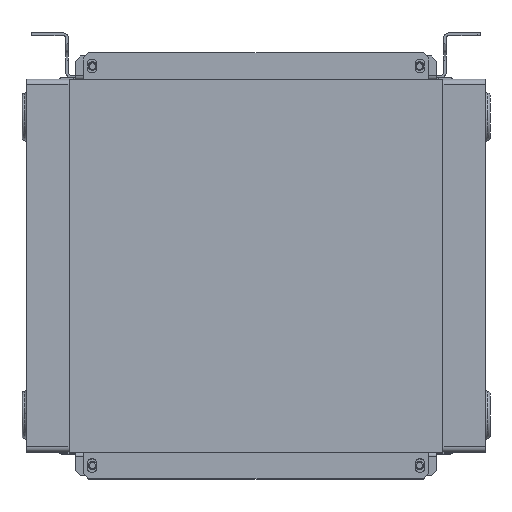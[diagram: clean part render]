
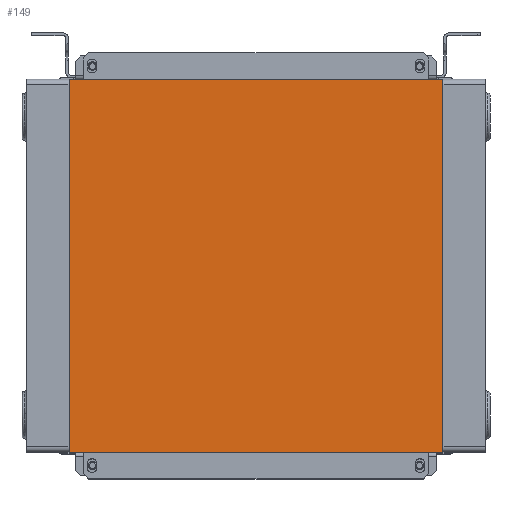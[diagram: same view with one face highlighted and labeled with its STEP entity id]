
A CAD part, top view. The second image highlights one B-rep face of the part: STEP entity #149.
In plain terms, the highlighted planar face has unit normal (0, 0, 1).
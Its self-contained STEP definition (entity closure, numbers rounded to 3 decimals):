
#17=CARTESIAN_POINT('',(264.828,59.725,63.0));
#18=VERTEX_POINT('',#17);
#25=CARTESIAN_POINT('',(-85.172,59.725,63.0));
#26=VERTEX_POINT('',#25);
#27=CARTESIAN_POINT('',(-85.172,59.725,63.0));
#28=DIRECTION('',(1.0,0.0,0.0));
#29=VECTOR('',#28,350.0);
#30=LINE('',#27,#29);
#31=EDGE_CURVE('',#26,#18,#30,.T.);
#55=CARTESIAN_POINT('',(264.828,408.725,63.0));
#56=VERTEX_POINT('',#55);
#63=CARTESIAN_POINT('',(264.828,59.725,63.0));
#64=DIRECTION('',(0.0,1.0,0.0));
#65=VECTOR('',#64,349.0);
#66=LINE('',#63,#65);
#67=EDGE_CURVE('',#18,#56,#66,.T.);
#86=CARTESIAN_POINT('',(-85.172,408.725,63.0));
#87=VERTEX_POINT('',#86);
#94=CARTESIAN_POINT('',(264.828,408.725,63.0));
#95=DIRECTION('',(-1.0,0.0,0.0));
#96=VECTOR('',#95,350.0);
#97=LINE('',#94,#96);
#98=EDGE_CURVE('',#56,#87,#97,.T.);
#116=CARTESIAN_POINT('',(-85.172,408.725,63.0));
#117=DIRECTION('',(0.0,-1.0,0.0));
#118=VECTOR('',#117,349.0);
#119=LINE('',#116,#118);
#120=EDGE_CURVE('',#87,#26,#119,.T.);
#138=CARTESIAN_POINT('',(-120.172,24.825,63.0));
#139=DIRECTION('',(0.0,0.0,1.0));
#140=DIRECTION('',(1.0,0.0,0.0));
#141=AXIS2_PLACEMENT_3D('',#138,#139,#140);
#142=PLANE('',#141);
#143=ORIENTED_EDGE('',*,*,#31,.T.);
#144=ORIENTED_EDGE('',*,*,#67,.T.);
#145=ORIENTED_EDGE('',*,*,#98,.T.);
#146=ORIENTED_EDGE('',*,*,#120,.T.);
#147=EDGE_LOOP('',(#143,#144,#145,#146));
#148=FACE_OUTER_BOUND('',#147,.T.);
#149=ADVANCED_FACE('',(#148),#142,.T.);
